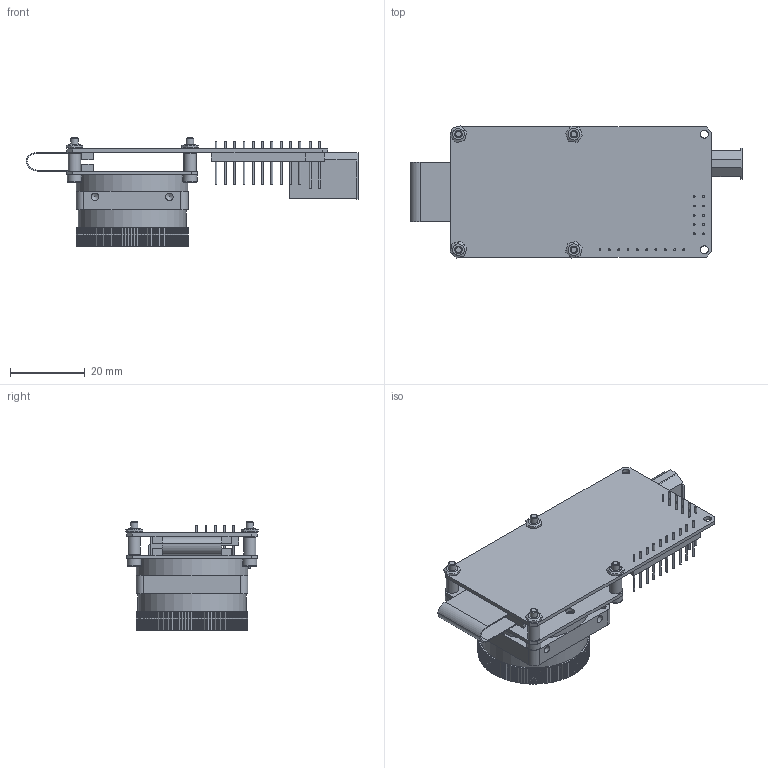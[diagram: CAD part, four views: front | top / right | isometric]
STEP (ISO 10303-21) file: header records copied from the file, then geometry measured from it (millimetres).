
FILE_DESCRIPTION((''),'2;1');
FILE_NAME('\\Avtnet.local\dfs-mechanics\Inventor\Kamerafamilien\Guppy\STEP-Dateien_Guppy\Guppy-Boardlevel_C-Mount.stp','2009-01-26T10:36:13',('mressin'),(''),'Autodesk Inventor 11','Autodesk Inventor 11','');
FILE_SCHEMA(('AUTOMOTIVE_DESIGN { 1 0 10303 214 1 1 1 1 }'));
Length unit declared in the file: millimetre
Products named in the file (1): Guppy BL C-Mount abl
Bounding box: 89.1 x 35.47 x 29.2 mm (x, y, z)
Volume: 13916.5 mm3; surface area: 15167.1 mm2
Topology: 1 solids, 2 shells, 703 faces, 1853 edges, 1229 vertices
Faces by surface type: plane 457, cylinder 202, bspline 23, cone 21
Full cylindrical faces by diameter (mm): 0.5 x40, 2 x8, 2.1 x10, 3.3 x4, 3.8 x4, 14 x1, 22.5 x1, 24.095 x1, 24.5 x3, 24.842 x1, 29 x1, 30 x1
Entity records: 21151 total; most frequent: CARTESIAN_POINT 4225, DIRECTION 3459, ORIENTED_EDGE 3396, EDGE_CURVE 1698, VERTEX_POINT 1192, VECTOR 1155, LINE 1155, AXIS2_PLACEMENT_3D 1152
